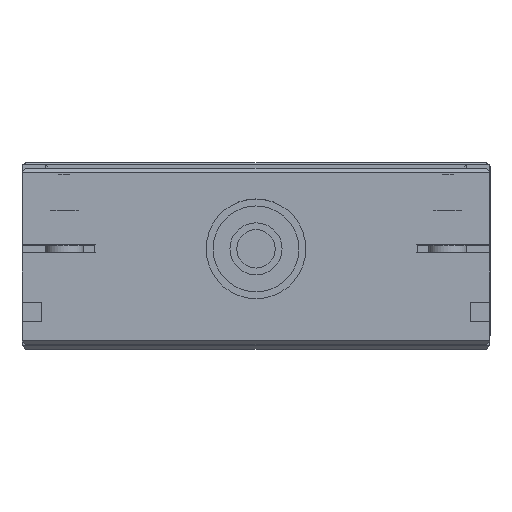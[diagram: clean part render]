
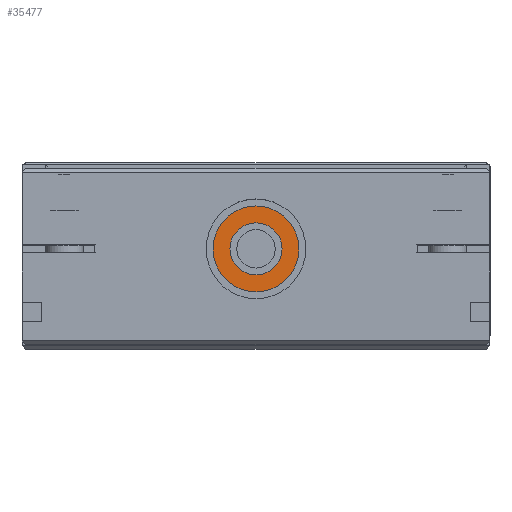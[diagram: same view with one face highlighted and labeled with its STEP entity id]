
A CAD part, top view. The second image highlights one B-rep face of the part: STEP entity #35477.
In plain terms, the highlighted planar face has unit normal (0, 0, 1) as drawn and (1, 0, 0) by its records, which use the part's own axes.
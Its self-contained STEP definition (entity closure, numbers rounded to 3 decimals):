
#23 = EDGE_CURVE ( 'NONE', #37451, #10924, #44801, .T. ) ;
#667 = FACE_OUTER_BOUND ( 'NONE', #33834, .T. ) ;
#1550 = AXIS2_PLACEMENT_3D ( 'NONE', #2211, #25521, #48075 ) ;
#1893 = DIRECTION ( 'NONE',  ( 0., 0., 1. ) ) ;
#2132 = AXIS2_PLACEMENT_3D ( 'NONE', #26511, #41809, #23488 ) ;
#2211 = CARTESIAN_POINT ( 'NONE',  ( 333., 25., 0. ) ) ;
#4889 = CARTESIAN_POINT ( 'NONE',  ( 333., 25., 6.8 ) ) ;
#6974 = CARTESIAN_POINT ( 'NONE',  ( 333., 25., -6.8 ) ) ;
#8160 = CIRCLE ( 'NONE', #43382, 6.8 ) ;
#8402 = CARTESIAN_POINT ( 'NONE',  ( 333., 25., -11.2 ) ) ;
#10924 = VERTEX_POINT ( 'NONE', #4889 ) ;
#12178 = DIRECTION ( 'NONE',  ( -1., 0., 0. ) ) ;
#12611 = ORIENTED_EDGE ( 'NONE', *, *, #30576, .F. ) ;
#14094 = ORIENTED_EDGE ( 'NONE', *, *, #38800, .T. ) ;
#14857 = EDGE_LOOP ( 'NONE', ( #14094, #39367 ) ) ;
#15946 = PLANE ( 'NONE',  #39944 ) ;
#17334 = EDGE_CURVE ( 'NONE', #44773, #41830, #43759, .T. ) ;
#18318 = DIRECTION ( 'NONE',  ( -1., 0., 0. ) ) ;
#20687 = CIRCLE ( 'NONE', #27900, 11.2 ) ;
#21066 = DIRECTION ( 'NONE',  ( 0., 0., 1. ) ) ;
#23488 = DIRECTION ( 'NONE',  ( 0., 0., 1. ) ) ;
#24830 = DIRECTION ( 'NONE',  ( -1., 0., 0. ) ) ;
#25371 = CARTESIAN_POINT ( 'NONE',  ( 333., 25., 0. ) ) ;
#25521 = DIRECTION ( 'NONE',  ( -1., 0., 0. ) ) ;
#26511 = CARTESIAN_POINT ( 'NONE',  ( 333., 25., 0. ) ) ;
#27900 = AXIS2_PLACEMENT_3D ( 'NONE', #40869, #24830, #21066 ) ;
#30576 = EDGE_CURVE ( 'NONE', #41830, #44773, #20687, .T. ) ;
#33612 = DIRECTION ( 'NONE',  ( 0., 0., 1. ) ) ;
#33834 = EDGE_LOOP ( 'NONE', ( #36015, #12611 ) ) ;
#35010 = FACE_BOUND ( 'NONE', #14857, .T. ) ;
#35477 = ADVANCED_FACE ( 'NONE', ( #667, #35010 ), #15946, .F. ) ;
#36015 = ORIENTED_EDGE ( 'NONE', *, *, #17334, .F. ) ;
#37451 = VERTEX_POINT ( 'NONE', #6974 ) ;
#38800 = EDGE_CURVE ( 'NONE', #10924, #37451, #8160, .T. ) ;
#39367 = ORIENTED_EDGE ( 'NONE', *, *, #23, .T. ) ;
#39944 = AXIS2_PLACEMENT_3D ( 'NONE', #46542, #12178, #1893 ) ;
#40869 = CARTESIAN_POINT ( 'NONE',  ( 333., 25., 0. ) ) ;
#41809 = DIRECTION ( 'NONE',  ( -1., 0., 0. ) ) ;
#41830 = VERTEX_POINT ( 'NONE', #8402 ) ;
#43382 = AXIS2_PLACEMENT_3D ( 'NONE', #25371, #18318, #33612 ) ;
#43759 = CIRCLE ( 'NONE', #2132, 11.2 ) ;
#44773 = VERTEX_POINT ( 'NONE', #45472 ) ;
#44801 = CIRCLE ( 'NONE', #1550, 6.8 ) ;
#45472 = CARTESIAN_POINT ( 'NONE',  ( 333., 25., 11.2 ) ) ;
#46542 = CARTESIAN_POINT ( 'NONE',  ( 333., 31.8, 0. ) ) ;
#48075 = DIRECTION ( 'NONE',  ( 0., 0., 1. ) ) ;
